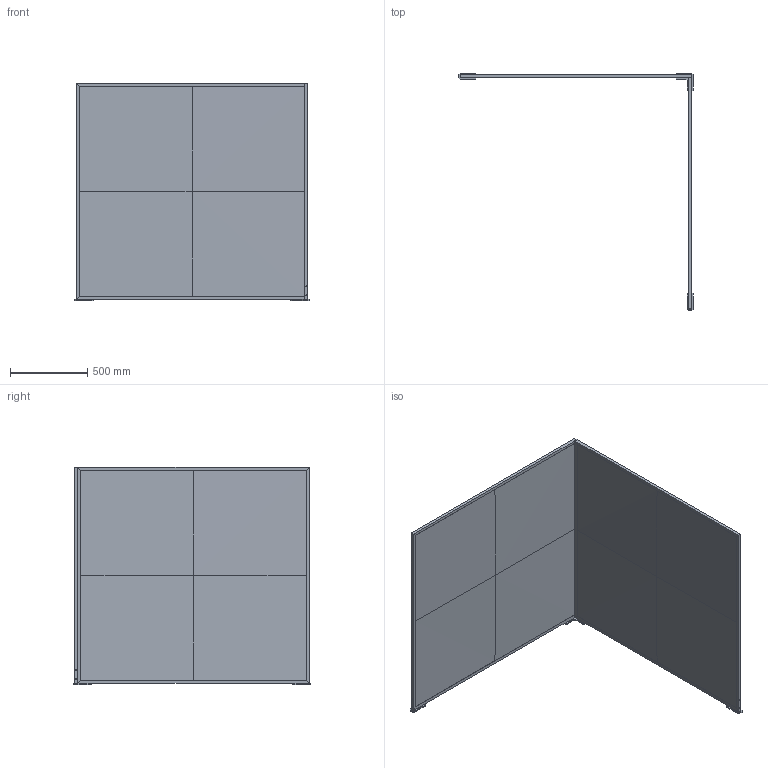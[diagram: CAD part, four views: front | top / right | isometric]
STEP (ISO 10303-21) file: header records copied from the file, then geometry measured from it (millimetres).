
FILE_DESCRIPTION(/* description */ (''),/* implementation_level */ '2;1');
FILE_NAME(/* name */ 'SL-WALL,LX,R',/* time_stamp */ '2021-10-22T15:09:10+02:00',/* author */ (''),/* organization */ (''),/* preprocessor_version */ 'ST-DEVELOPER v16.5',/* originating_system */ '',/* authorisation */ '');
FILE_SCHEMA (('CONFIG_CONTROL_DESIGN'));
Length unit declared in the file: millimetre
Products named in the file (1): Document
Bounding box: 1520.5 x 1541 x 1408 mm (x, y, z)
Volume: 138739.8 mm3; surface area: 9015718.9 mm2
Topology: 3 solids, 17 shells, 162 faces, 391 edges, 256 vertices
Faces by surface type: plane 132, bspline 16, cylinder 14
Entity records: 4915 total; most frequent: CARTESIAN_POINT 2091, ORIENTED_EDGE 728, EDGE_CURVE 388, B_SPLINE_CURVE_WITH_KNOTS 346, VERTEX_POINT 252, EDGE_LOOP 178, ADVANCED_FACE 162, FACE_OUTER_BOUND 162
